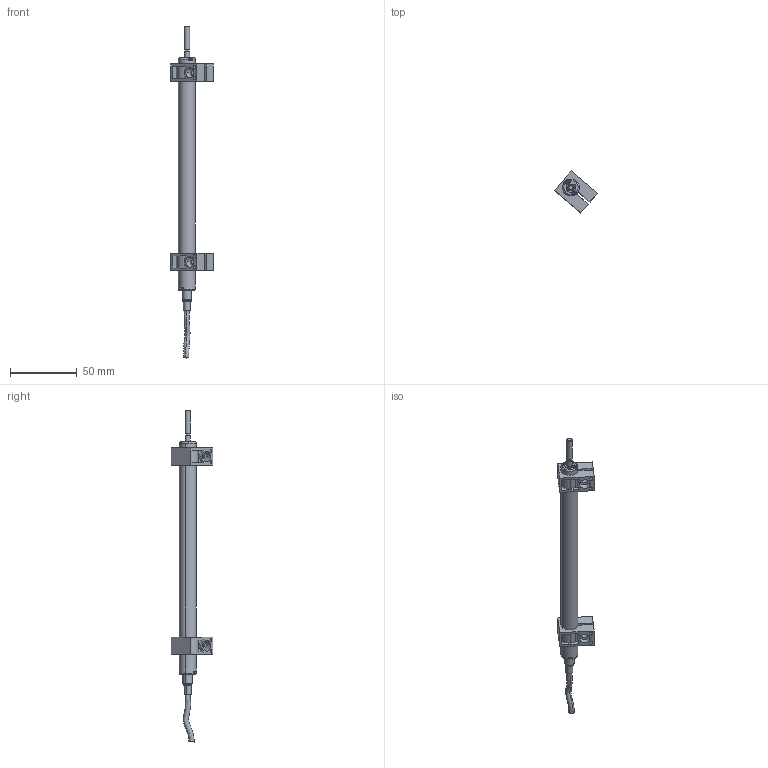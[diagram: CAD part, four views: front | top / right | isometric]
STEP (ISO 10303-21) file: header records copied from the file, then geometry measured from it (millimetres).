
FILE_DESCRIPTION(('STEP AP203'),'1');
FILE_NAME('C:/TPO v2/SharedFS/Outgoing/burster_8709-5125_y69xfs206rlv9x6kea1i7xd5.stp','2013-08-27T15:06:20',('TraceParts'),('TraceParts S.A.'),'XStep 1.0',' ',' ');
FILE_SCHEMA(('CONFIG_CONTROL_DESIGN'));
Length unit declared in the file: millimetre
Products named in the file (1): 1
Bounding box: 32.11 x 31.32 x 249.2 mm (x, y, z)
Volume: 29106.7 mm3; surface area: 14976.5 mm2
Topology: 1 solids, 6 shells, 420 faces, 1112 edges, 722 vertices
Faces by surface type: plane 195, cylinder 121, cone 82, torus 12, sphere 8, bspline 2
Entity records: 13974 total; most frequent: CARTESIAN_POINT 3230, DIRECTION 2388, ORIENTED_EDGE 2226, EDGE_CURVE 1113, AXIS2_PLACEMENT_3D 956, VERTEX_POINT 722, CIRCLE 521, LINE 476
